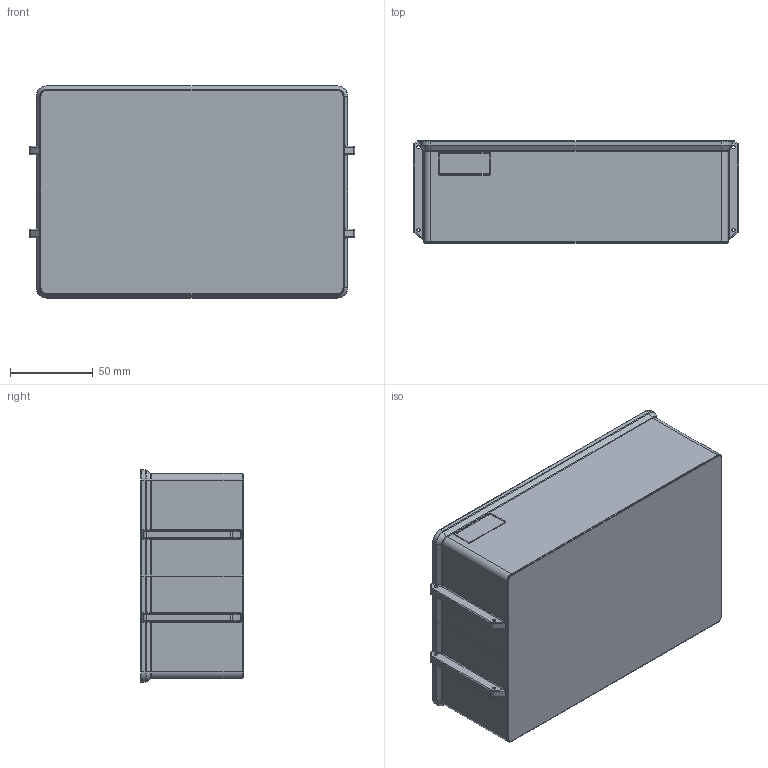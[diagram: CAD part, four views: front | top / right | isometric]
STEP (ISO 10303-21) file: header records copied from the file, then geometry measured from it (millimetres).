
FILE_DESCRIPTION (( 'STEP AP214' ), '1' );
FILE_NAME ('Tiered Storage Box 60.STEP', '2024-06-05T01:27:03', ( '' ), ( '' ), 'SwSTEP 2.0', 'SolidWorks 2022', '' );
FILE_SCHEMA (( 'AUTOMOTIVE_DESIGN' ));
Length unit declared in the file: millimetre
Products named in the file (1): Tiered Storage Box 60
Bounding box: 197 x 62 x 128.4 mm (x, y, z)
Volume: 210037.1 mm3; surface area: 221309.2 mm2
Topology: 1 solids, 1 shells, 761 faces, 1754 edges, 898 vertices
Faces by surface type: cylinder 338, plane 159, torus 102, bspline 90, sphere 60, cone 12
Entity records: 22591 total; most frequent: CARTESIAN_POINT 6376, DIRECTION 3585, ORIENTED_EDGE 3320, EDGE_CURVE 1660, AXIS2_PLACEMENT_3D 1427, VERTEX_POINT 898, EDGE_LOOP 774, FACE_OUTER_BOUND 761
